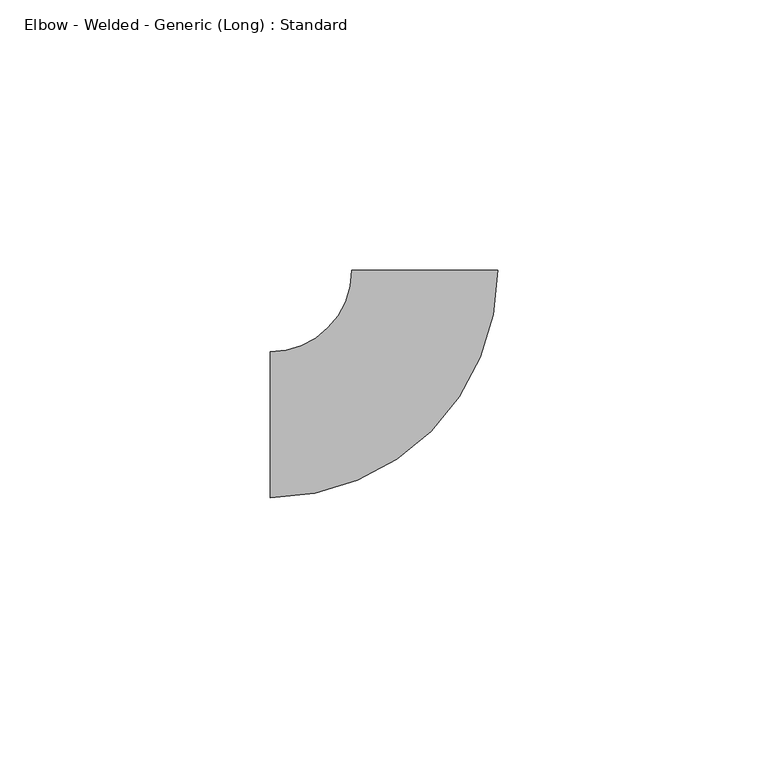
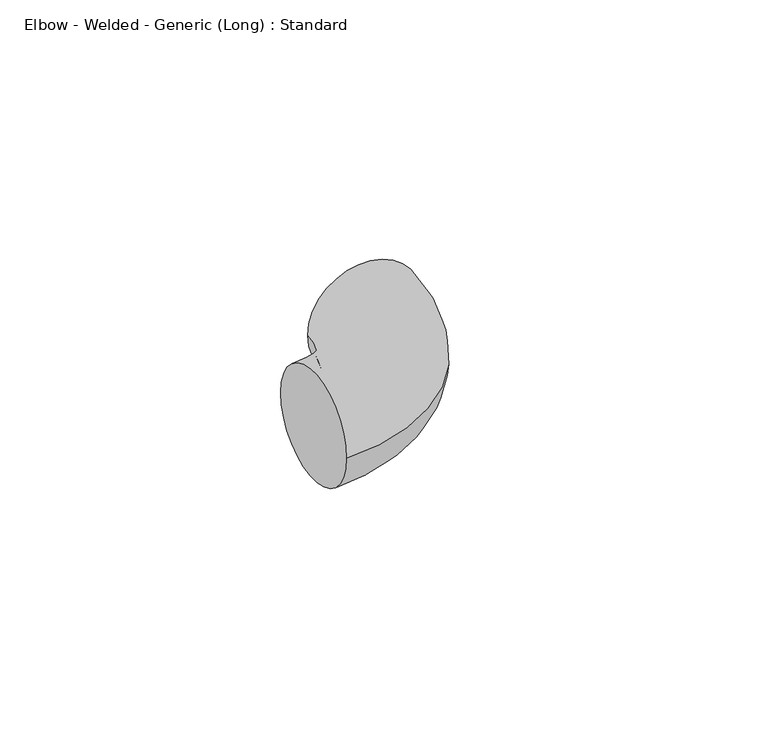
"""IFC4 building model written with IfcOpenShell, lengths in millimetres: pipe fitting geometry, Elbow - Welded - Generic (Long) : Standard."""

from ifc_helpers import new_model, si_unit, point, frame, origin, place, context, project, spatial, circle_curve, ellipse_curve, trimmed, source, transform, mapped, element, save
from ifc_brep_helpers import plane_surface, revolved_surface, advanced_brep


def elbow_welded_generic_long_standard_726ae775(model_context):
    return source(origin(), model_context, "Body", "AdvancedBrep", [
        advanced_brep(
        [(-28.575, -13.49375, 0.0), (-28.575, 13.49375, 0.0), (13.482096, 28.5805004, 0.0), (-13.5054018, 28.5694949, 0.0)],
        [
            (0, 1, circle_curve(frame((-28.575, 0.0, 0.0), z_axis=(-1.0, 0.0, 0.0), x_axis=(0.0, 1.0, 0.0)), 13.49375)),
            (1, 0, circle_curve(frame((-28.575, 0.0, 0.0), z_axis=(-1.0, 0.0, 0.0), x_axis=(0.0, 1.0, 0.0)), 13.49375)),
            (2, 3, circle_curve(frame((-0.0116529, 28.5749976, 0.0), z_axis=(-0.00040780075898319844, 0.999999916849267, 0.0), x_axis=(-0.999999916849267, -0.00040780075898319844, 0.0)), 13.49375)),
            (3, 2, circle_curve(frame((-0.0116529, 28.5749976, 0.0), z_axis=(-0.00040780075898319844, 0.999999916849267, 0.0), x_axis=(-0.999999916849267, -0.00040780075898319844, 0.0)), 13.49375)),
            (3, 1, circle_curve(frame((-28.575, 28.5633495, 0.0), z_axis=(0.0, 0.0, -1.0), x_axis=(0.0, -1.0, 0.0)), 15.0695995)),
            (0, 2, circle_curve(frame((-28.575, 28.5633495, 0.0), z_axis=(0.0, 0.0, 1.0), x_axis=(0.0, -1.0, 0.0)), 42.0570995)),
        ],
        [
            plane_surface(frame((-28.575, 0.0, 0.0), z_axis=(-1.0, 0.0, 0.0), x_axis=(0.0, 0.0, 1.0))),
            plane_surface(frame((-0.0116529, 28.5749976, 0.0), z_axis=(-0.0004078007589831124, 0.999999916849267, 0.0), x_axis=(0.0, 0.0, 1.0))),
            revolved_surface(trimmed(ellipse_curve(frame((-28.575, 0.0, 0.0), z_axis=(-1.0, 0.0, 0.0), x_axis=(0.0, 1.0, 0.0)), 13.49375, 13.49375), [point((-28.575, -13.49375, 0.0))], [point((-28.575, 13.49375, 0.0))], True, "CARTESIAN"), (-28.575, 28.5633495, 0.0), (0.0, 0.0, 1.0)),
            revolved_surface(trimmed(ellipse_curve(frame((-28.575, 0.0, 0.0), z_axis=(-1.0, 0.0, 0.0), x_axis=(0.0, 1.0, 0.0)), 13.49375, 13.49375), [point((-28.575, 13.49375, 0.0))], [point((-28.575, -13.49375, 0.0))], True, "CARTESIAN"), (-28.575, 28.5633495, 0.0), (0.0, 0.0, 1.0)),
        ],
        [
            (0, [[1, 2]]),
            (1, [[3, 4]]),
            (2, [[5, -1, 6, -4]]),
            (3, [[-6, -2, -5, -3]]),
        ],
    ),
    ])


if __name__ == "__main__":
    model = new_model("IFC4")
    model_context = context("Model", 3, world=origin())
    ifc_project = project(units=[si_unit("LENGTHUNIT", "METRE", prefix="MILLI")], contexts=[model_context])
    site = spatial("IfcSite", under=ifc_project)
    building = spatial("IfcBuilding", under=site)
    placement = place(None, origin())
    elbow_welded_generic_long_standard_shape = elbow_welded_generic_long_standard_726ae775(model_context)
    element("IfcPipeFitting", 1, ObjectType="Elbow - Welded - Generic (Long) : Standard", at=placement, inside=building, context=model_context, shape_type="MappedRepresentation", body=[
        mapped(elbow_welded_generic_long_standard_shape, transform((0.0, 0.0, 0.0), x_axis=(1.0, 0.0, 0.0), y_axis=(0.0, 1.0, 0.0), z_axis=(0.0, 0.0, 1.0))),
    ])
    save(model, "model.ifc")
